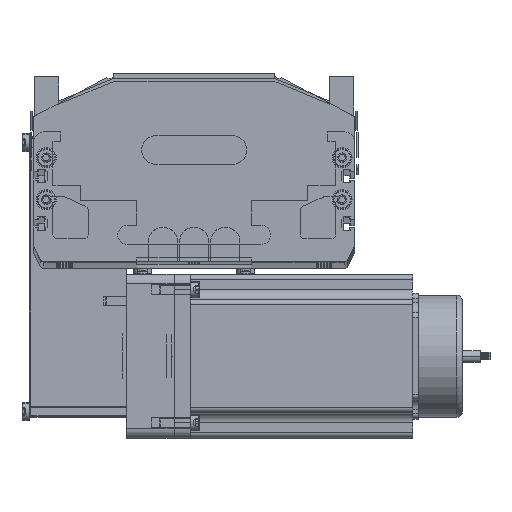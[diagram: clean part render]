
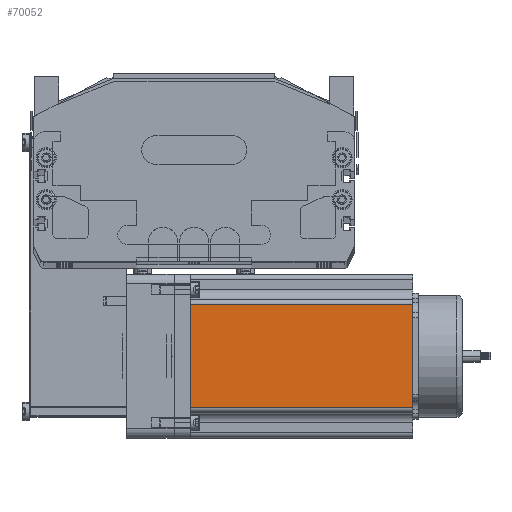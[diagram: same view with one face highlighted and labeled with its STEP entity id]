
A CAD part, top view. The second image highlights one B-rep face of the part: STEP entity #70052.
In plain terms, the highlighted planar face has unit normal (0, 0, 1) as drawn and (0, -1, 0) by its records, which use the part's own axes.
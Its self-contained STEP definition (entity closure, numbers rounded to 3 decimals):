
#32543 = LINE ( 'NONE', #32700, #32699 ) ;
#32598 = CARTESIAN_POINT ( 'NONE',  ( 16.16, 0., 116.5 ) ) ;
#32677 = CARTESIAN_POINT ( 'NONE',  ( 16.16, 0., 0. ) ) ;
#32686 = DIRECTION ( 'NONE',  ( 0., 0., 1. ) ) ;
#32687 = VECTOR ( 'NONE', #32686, 1000. ) ;
#32689 = CARTESIAN_POINT ( 'NONE',  ( 69.74, 0., 116.5 ) ) ;
#32690 = LINE ( 'NONE', #32689, #32687 ) ;
#32696 = DIRECTION ( 'NONE',  ( 1., 0., 0. ) ) ;
#32699 = VECTOR ( 'NONE', #32696, 1000. ) ;
#32700 = CARTESIAN_POINT ( 'NONE',  ( 0., 0., 116.5 ) ) ;
#45709 = LINE ( 'NONE', #45826, #45825 ) ;
#45824 = DIRECTION ( 'NONE',  ( 1., 0., 0. ) ) ;
#45825 = VECTOR ( 'NONE', #45824, 1000. ) ;
#45826 = CARTESIAN_POINT ( 'NONE',  ( 0., 0., 0. ) ) ;
#45904 = PLANE ( 'NONE',  #46033 ) ;
#45908 = CARTESIAN_POINT ( 'NONE',  ( 69.74, 0., 0. ) ) ;
#45947 = DIRECTION ( 'NONE',  ( 0., 1., 0. ) ) ;
#46002 = CARTESIAN_POINT ( 'NONE',  ( 69.74, 0., 116.5 ) ) ;
#46007 = DIRECTION ( 'NONE',  ( 0., 0., 1. ) ) ;
#46020 = CARTESIAN_POINT ( 'NONE',  ( 0., 0., 116.5 ) ) ;
#46033 = AXIS2_PLACEMENT_3D ( 'NONE', #46020, #45947, #46007 ) ;
#46034 = FACE_OUTER_BOUND ( 'NONE', #69884, .T. ) ;
#46093 = LINE ( 'NONE', #52661, #75658 ) ;
#52661 = CARTESIAN_POINT ( 'NONE',  ( 16.16, 0., 116.5 ) ) ;
#69884 = EDGE_LOOP ( 'NONE', ( #70125, #70055, #70056, #70109 ) ) ;
#69896 = VERTEX_POINT ( 'NONE', #32598 ) ;
#69898 = EDGE_CURVE ( 'NONE', #69896, #70054, #32543, .T. ) ;
#69899 = EDGE_CURVE ( 'NONE', #70053, #70054, #32690, .T. ) ;
#69912 = VERTEX_POINT ( 'NONE', #32677 ) ;
#69939 = EDGE_CURVE ( 'NONE', #69912, #70053, #45709, .T. ) ;
#70052 = ADVANCED_FACE ( 'NONE', ( #46034 ), #45904, .F. ) ;
#70053 = VERTEX_POINT ( 'NONE', #45908 ) ;
#70054 = VERTEX_POINT ( 'NONE', #46002 ) ;
#70055 = ORIENTED_EDGE ( 'NONE', *, *, #69899, .T. ) ;
#70056 = ORIENTED_EDGE ( 'NONE', *, *, #69898, .F. ) ;
#70109 = ORIENTED_EDGE ( 'NONE', *, *, #70127, .T. ) ;
#70125 = ORIENTED_EDGE ( 'NONE', *, *, #69939, .T. ) ;
#70127 = EDGE_CURVE ( 'NONE', #69896, #69912, #46093, .T. ) ;
#72870 = DIRECTION ( 'NONE',  ( 0., 0., -1. ) ) ;
#75658 = VECTOR ( 'NONE', #72870, 1000. ) ;
